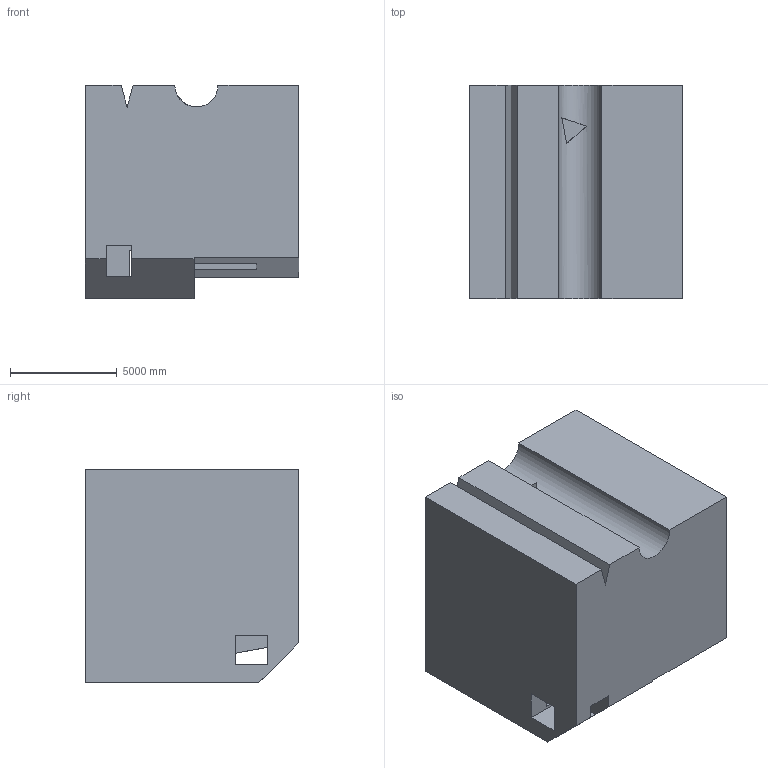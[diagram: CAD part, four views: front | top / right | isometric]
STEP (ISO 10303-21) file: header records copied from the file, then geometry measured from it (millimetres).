
FILE_DESCRIPTION (( 'STEP AP203' ), '1' );
FILE_NAME ('859.STEP', '2022-07-29T13:46:38', ( 'user' ), ( '' ), 'SwSTEP 2.0', 'SolidWorks 2021', '' );
FILE_SCHEMA (( 'CONFIG_CONTROL_DESIGN' ));
Length unit declared in the file: centimetre
Products named in the file (1): 859
Bounding box: 10000 x 10000 x 10000 mm (x, y, z)
Volume: 854648590547.1 mm3; surface area: 703303876.6 mm2
Topology: 1 solids, 1 shells, 48 faces, 147 edges, 98 vertices
Faces by surface type: plane 43, cylinder 5
Entity records: 1726 total; most frequent: CARTESIAN_POINT 303, ORIENTED_EDGE 294, DIRECTION 264, EDGE_CURVE 147, LINE 122, VECTOR 122, VERTEX_POINT 98, AXIS2_PLACEMENT_3D 71
